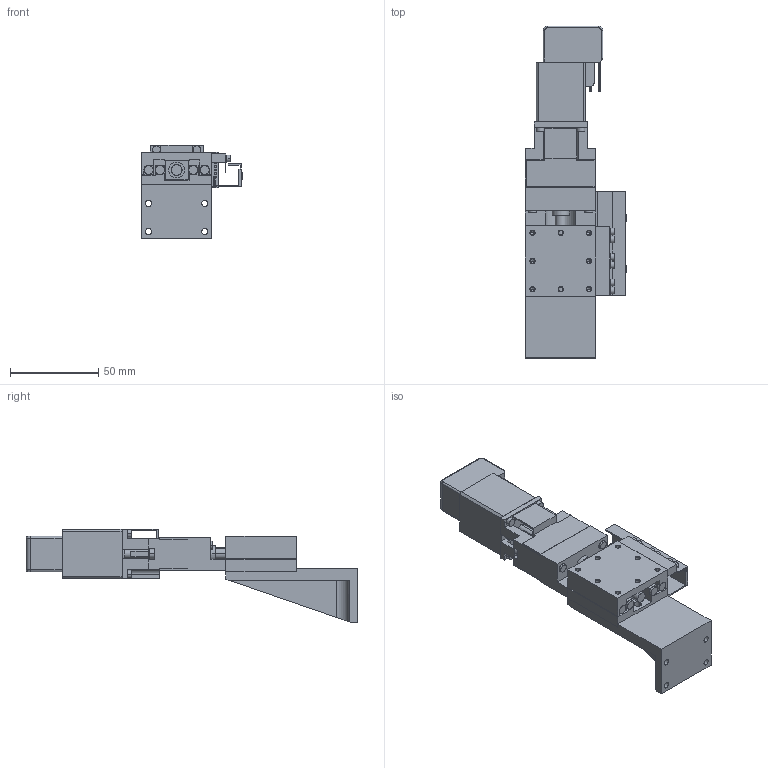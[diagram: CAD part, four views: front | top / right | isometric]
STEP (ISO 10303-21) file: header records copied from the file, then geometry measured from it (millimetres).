
FILE_DESCRIPTION(('STEP AP203'),'1');
FILE_NAME('C:/3D-Trans/3D_PZG413T-R□-ZA+240125.step','2024-03-14T08:48:08',(' '),(' '),'Spatial InterOp 3D',' ',' ');
FILE_SCHEMA(('CONFIG_CONTROL_DESIGN'));
Length unit declared in the file: millimetre
Products named in the file (7): 1; 2; 3; 4; 5; 6; 7
Bounding box: 57.4 x 188.5 x 53 mm (x, y, z)
Volume: 126178.9 mm3; surface area: 53075.8 mm2
Topology: 7 solids, 7 shells, 613 faces, 1562 edges, 976 vertices
Faces by surface type: plane 324, cylinder 221, cone 64, torus 4
Entity records: 18893 total; most frequent: CARTESIAN_POINT 3455, DIRECTION 3268, ORIENTED_EDGE 3068, EDGE_CURVE 1534, AXIS2_PLACEMENT_3D 1141, LINE 986, VECTOR 986, VERTEX_POINT 976
